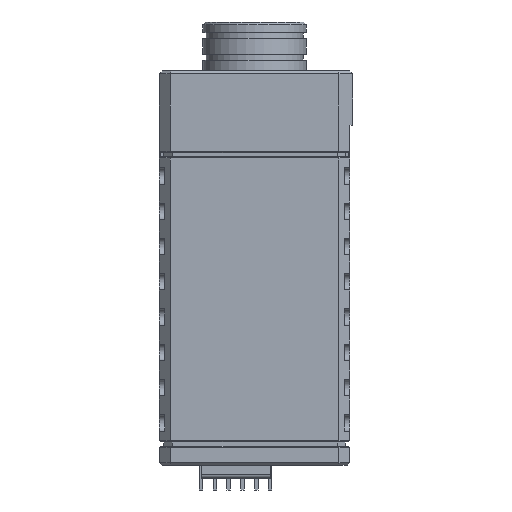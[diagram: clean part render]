
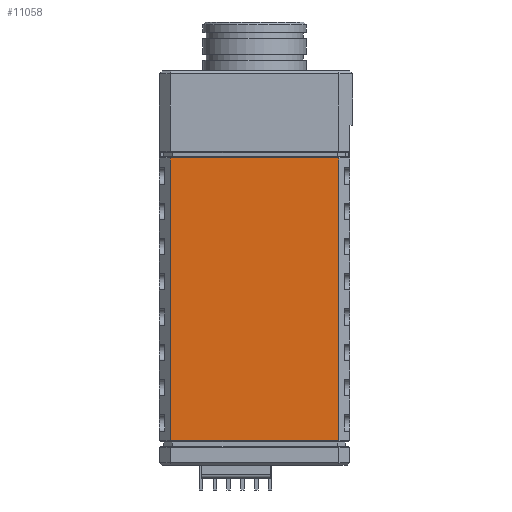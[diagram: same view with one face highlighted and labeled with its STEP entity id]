
A CAD part, left-side view. The second image highlights one B-rep face of the part: STEP entity #11058.
In plain terms, the highlighted planar face has unit normal (-1, 0, 0).
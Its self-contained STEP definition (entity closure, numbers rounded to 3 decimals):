
#653 = EDGE_CURVE ( 'NONE', #19779, #21260, #14040, .T. ) ;
#1804 = FACE_OUTER_BOUND ( 'NONE', #8432, .T. ) ;
#2508 = CARTESIAN_POINT ( 'NONE',  ( -30., 17.5, -53. ) ) ;
#3329 = EDGE_CURVE ( 'NONE', #21260, #16776, #17867, .T. ) ;
#4016 = ORIENTED_EDGE ( 'NONE', *, *, #3329, .T. ) ;
#4197 = ORIENTED_EDGE ( 'NONE', *, *, #19728, .T. ) ;
#4891 = VECTOR ( 'NONE', #11002, 1000. ) ;
#5438 = ORIENTED_EDGE ( 'NONE', *, *, #653, .T. ) ;
#6480 = VECTOR ( 'NONE', #13044, 1000. ) ;
#7248 = LINE ( 'NONE', #20804, #11739 ) ;
#7358 = DIRECTION ( 'NONE',  ( 0., 0., 1. ) ) ;
#8408 = ORIENTED_EDGE ( 'NONE', *, *, #12110, .T. ) ;
#8432 = EDGE_LOOP ( 'NONE', ( #5438, #4016, #4197, #8408 ) ) ;
#9578 = LINE ( 'NONE', #17762, #6480 ) ;
#10333 = DIRECTION ( 'NONE',  ( -1., 0., 0. ) ) ;
#11002 = DIRECTION ( 'NONE',  ( 0., 0., -1. ) ) ;
#11058 = ADVANCED_FACE ( 'NONE', ( #1804 ), #13246, .T. ) ;
#11739 = VECTOR ( 'NONE', #7358, 1000. ) ;
#12110 = EDGE_CURVE ( 'NONE', #15200, #19779, #9578, .T. ) ;
#13044 = DIRECTION ( 'NONE',  ( 0., 1., 0. ) ) ;
#13246 = PLANE ( 'NONE',  #21687 ) ;
#13455 = CARTESIAN_POINT ( 'NONE',  ( -30., 15.5, -53. ) ) ;
#14040 = LINE ( 'NONE', #20859, #4891 ) ;
#14651 = VECTOR ( 'NONE', #18637, 1000. ) ;
#15124 = CARTESIAN_POINT ( 'NONE',  ( -30., -15.5, -53. ) ) ;
#15200 = VERTEX_POINT ( 'NONE', #19104 ) ;
#15377 = CARTESIAN_POINT ( 'NONE',  ( -30., 17.5, -54. ) ) ;
#16776 = VERTEX_POINT ( 'NONE', #15124 ) ;
#17670 = CARTESIAN_POINT ( 'NONE',  ( -30., 15.5, -1. ) ) ;
#17762 = CARTESIAN_POINT ( 'NONE',  ( -30., 17.5, -1. ) ) ;
#17867 = LINE ( 'NONE', #2508, #14651 ) ;
#18637 = DIRECTION ( 'NONE',  ( 0., -1., 0. ) ) ;
#19104 = CARTESIAN_POINT ( 'NONE',  ( -30., -15.5, -1. ) ) ;
#19728 = EDGE_CURVE ( 'NONE', #16776, #15200, #7248, .T. ) ;
#19779 = VERTEX_POINT ( 'NONE', #17670 ) ;
#20804 = CARTESIAN_POINT ( 'NONE',  ( -30., -15.5, -54. ) ) ;
#20859 = CARTESIAN_POINT ( 'NONE',  ( -30., 15.5, -54. ) ) ;
#21260 = VERTEX_POINT ( 'NONE', #13455 ) ;
#21687 = AXIS2_PLACEMENT_3D ( 'NONE', #15377, #10333, #21865 ) ;
#21865 = DIRECTION ( 'NONE',  ( 0., -1., 0. ) ) ;
